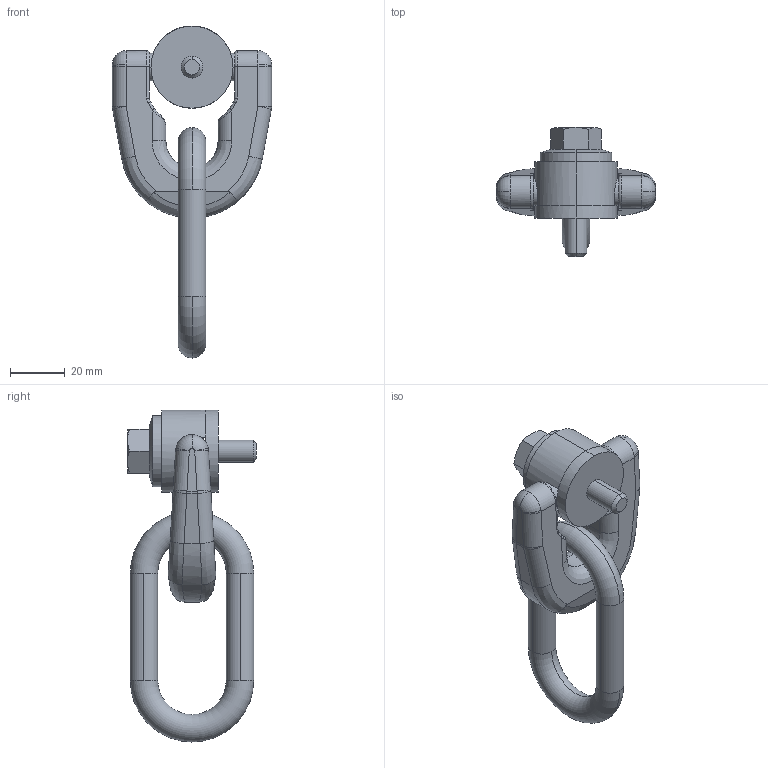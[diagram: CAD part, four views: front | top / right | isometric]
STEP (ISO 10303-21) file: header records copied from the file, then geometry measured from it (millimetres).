
FILE_DESCRIPTION (( 'STEP AP203' ), '1' );
FILE_NAME ('63150.W0008.step', '2013-12-13T11:50:29', ( 'User' ), ( '' ), 'SwSTEP 2.0', 'SolidWorks 2009', '' );
FILE_SCHEMA (( 'CONFIG_CONTROL_DESIGN' ));
Length unit declared in the file: millimetre
Products named in the file (4): Part1_63150.W0008; Part2A; Part3_63150.W0008; 63150.W0008
Assembly tree (3 placements, depth 2):
  63150.W0008
    Part2A
    Part1_63150.W0008
    Part3_63150.W0008
Bounding box: 58 x 47 x 121 mm (x, y, z)
Volume: 59642.1 mm3; surface area: 18791.1 mm2
Topology: 3 solids, 3 shells, 133 faces, 319 edges, 190 vertices
Faces by surface type: cylinder 41, bspline 33, plane 33, torus 12, cone 10, sphere 4
Entity records: 5611 total; most frequent: CARTESIAN_POINT 2343, ORIENTED_EDGE 634, DIRECTION 582, EDGE_CURVE 317, AXIS2_PLACEMENT_3D 237, VERTEX_POINT 190, EDGE_LOOP 137, ADVANCED_FACE 133
